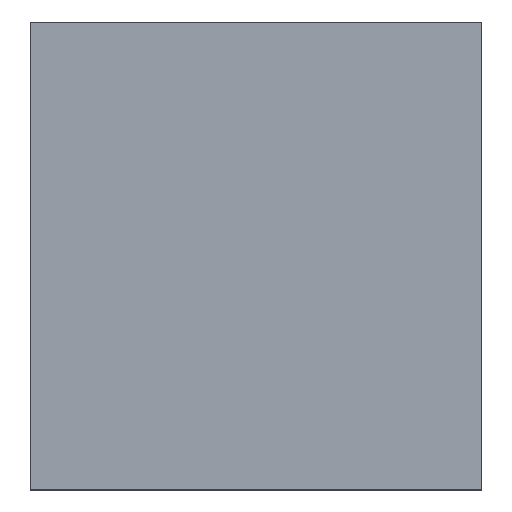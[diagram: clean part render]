
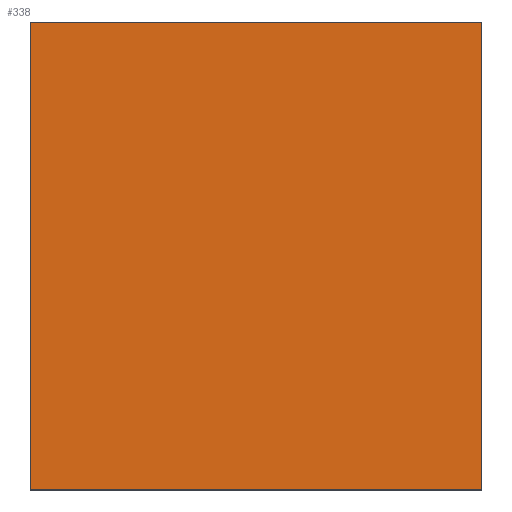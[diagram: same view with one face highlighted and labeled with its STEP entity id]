
A CAD part, top view. The second image highlights one B-rep face of the part: STEP entity #338.
In plain terms, the highlighted planar face has unit normal (0, 0, 1).
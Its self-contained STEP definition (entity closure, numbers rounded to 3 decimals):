
#24 = VERTEX_POINT('',#25);
#25 = CARTESIAN_POINT('',(-0.811,-0.84,0.5));
#32 = PLANE('',#33);
#33 = AXIS2_PLACEMENT_3D('',#34,#35,#36);
#34 = CARTESIAN_POINT('',(-0.811,-0.84,0.2));
#35 = DIRECTION('',(1.,0.,-0.));
#36 = DIRECTION('',(0.,0.,1.));
#44 = PLANE('',#45);
#45 = AXIS2_PLACEMENT_3D('',#46,#47,#48);
#46 = CARTESIAN_POINT('',(-0.811,-0.84,0.2));
#47 = DIRECTION('',(-0.,1.,0.));
#48 = DIRECTION('',(0.,0.,1.));
#85 = VERTEX_POINT('',#86);
#86 = CARTESIAN_POINT('',(-0.811,0.84,0.5));
#100 = PLANE('',#101);
#101 = AXIS2_PLACEMENT_3D('',#102,#103,#104);
#102 = CARTESIAN_POINT('',(-0.811,0.84,0.2));
#103 = DIRECTION('',(-0.,1.,0.));
#104 = DIRECTION('',(0.,0.,1.));
#112 = EDGE_CURVE('',#24,#85,#113,.T.);
#113 = SURFACE_CURVE('',#114,(#118,#125),.PCURVE_S1.);
#114 = LINE('',#115,#116);
#115 = CARTESIAN_POINT('',(-0.811,-0.84,0.5));
#116 = VECTOR('',#117,1.);
#117 = DIRECTION('',(-0.,1.,0.));
#118 = PCURVE('',#32,#119);
#119 = DEFINITIONAL_REPRESENTATION('',(#120),#124);
#120 = LINE('',#121,#122);
#121 = CARTESIAN_POINT('',(0.3,0.));
#122 = VECTOR('',#123,1.);
#123 = DIRECTION('',(0.,-1.));
#124 = ( GEOMETRIC_REPRESENTATION_CONTEXT(2) 
PARAMETRIC_REPRESENTATION_CONTEXT() REPRESENTATION_CONTEXT('2D SPACE',''
  ) );
#125 = PCURVE('',#126,#131);
#126 = PLANE('',#127);
#127 = AXIS2_PLACEMENT_3D('',#128,#129,#130);
#128 = CARTESIAN_POINT('',(-0.811,-0.84,0.5));
#129 = DIRECTION('',(0.,0.,1.));
#130 = DIRECTION('',(1.,0.,-0.));
#131 = DEFINITIONAL_REPRESENTATION('',(#132),#136);
#132 = LINE('',#133,#134);
#133 = CARTESIAN_POINT('',(0.,0.));
#134 = VECTOR('',#135,1.);
#135 = DIRECTION('',(0.,1.));
#136 = ( GEOMETRIC_REPRESENTATION_CONTEXT(2) 
PARAMETRIC_REPRESENTATION_CONTEXT() REPRESENTATION_CONTEXT('2D SPACE',''
  ) );
#144 = VERTEX_POINT('',#145);
#145 = CARTESIAN_POINT('',(0.811,-0.84,0.5));
#152 = PLANE('',#153);
#153 = AXIS2_PLACEMENT_3D('',#154,#155,#156);
#154 = CARTESIAN_POINT('',(0.811,-0.84,0.2));
#155 = DIRECTION('',(1.,0.,-0.));
#156 = DIRECTION('',(0.,0.,1.));
#195 = VERTEX_POINT('',#196);
#196 = CARTESIAN_POINT('',(0.811,0.84,0.5));
#217 = EDGE_CURVE('',#144,#195,#218,.T.);
#218 = SURFACE_CURVE('',#219,(#223,#230),.PCURVE_S1.);
#219 = LINE('',#220,#221);
#220 = CARTESIAN_POINT('',(0.811,-0.84,0.5));
#221 = VECTOR('',#222,1.);
#222 = DIRECTION('',(-0.,1.,0.));
#223 = PCURVE('',#152,#224);
#224 = DEFINITIONAL_REPRESENTATION('',(#225),#229);
#225 = LINE('',#226,#227);
#226 = CARTESIAN_POINT('',(0.3,0.));
#227 = VECTOR('',#228,1.);
#228 = DIRECTION('',(0.,-1.));
#229 = ( GEOMETRIC_REPRESENTATION_CONTEXT(2) 
PARAMETRIC_REPRESENTATION_CONTEXT() REPRESENTATION_CONTEXT('2D SPACE',''
  ) );
#230 = PCURVE('',#126,#231);
#231 = DEFINITIONAL_REPRESENTATION('',(#232),#236);
#232 = LINE('',#233,#234);
#233 = CARTESIAN_POINT('',(1.621,0.));
#234 = VECTOR('',#235,1.);
#235 = DIRECTION('',(0.,1.));
#236 = ( GEOMETRIC_REPRESENTATION_CONTEXT(2) 
PARAMETRIC_REPRESENTATION_CONTEXT() REPRESENTATION_CONTEXT('2D SPACE',''
  ) );
#263 = EDGE_CURVE('',#24,#144,#264,.T.);
#264 = SURFACE_CURVE('',#265,(#269,#276),.PCURVE_S1.);
#265 = LINE('',#266,#267);
#266 = CARTESIAN_POINT('',(-0.811,-0.84,0.5));
#267 = VECTOR('',#268,1.);
#268 = DIRECTION('',(1.,0.,-0.));
#269 = PCURVE('',#44,#270);
#270 = DEFINITIONAL_REPRESENTATION('',(#271),#275);
#271 = LINE('',#272,#273);
#272 = CARTESIAN_POINT('',(0.3,0.));
#273 = VECTOR('',#274,1.);
#274 = DIRECTION('',(0.,1.));
#275 = ( GEOMETRIC_REPRESENTATION_CONTEXT(2) 
PARAMETRIC_REPRESENTATION_CONTEXT() REPRESENTATION_CONTEXT('2D SPACE',''
  ) );
#276 = PCURVE('',#126,#277);
#277 = DEFINITIONAL_REPRESENTATION('',(#278),#282);
#278 = LINE('',#279,#280);
#279 = CARTESIAN_POINT('',(0.,0.));
#280 = VECTOR('',#281,1.);
#281 = DIRECTION('',(1.,0.));
#282 = ( GEOMETRIC_REPRESENTATION_CONTEXT(2) 
PARAMETRIC_REPRESENTATION_CONTEXT() REPRESENTATION_CONTEXT('2D SPACE',''
  ) );
#310 = EDGE_CURVE('',#85,#195,#311,.T.);
#311 = SURFACE_CURVE('',#312,(#316,#323),.PCURVE_S1.);
#312 = LINE('',#313,#314);
#313 = CARTESIAN_POINT('',(-0.811,0.84,0.5));
#314 = VECTOR('',#315,1.);
#315 = DIRECTION('',(1.,0.,-0.));
#316 = PCURVE('',#100,#317);
#317 = DEFINITIONAL_REPRESENTATION('',(#318),#322);
#318 = LINE('',#319,#320);
#319 = CARTESIAN_POINT('',(0.3,0.));
#320 = VECTOR('',#321,1.);
#321 = DIRECTION('',(0.,1.));
#322 = ( GEOMETRIC_REPRESENTATION_CONTEXT(2) 
PARAMETRIC_REPRESENTATION_CONTEXT() REPRESENTATION_CONTEXT('2D SPACE',''
  ) );
#323 = PCURVE('',#126,#324);
#324 = DEFINITIONAL_REPRESENTATION('',(#325),#329);
#325 = LINE('',#326,#327);
#326 = CARTESIAN_POINT('',(0.,1.68));
#327 = VECTOR('',#328,1.);
#328 = DIRECTION('',(1.,0.));
#329 = ( GEOMETRIC_REPRESENTATION_CONTEXT(2) 
PARAMETRIC_REPRESENTATION_CONTEXT() REPRESENTATION_CONTEXT('2D SPACE',''
  ) );
#338 = ADVANCED_FACE('',(#339),#126,.T.);
#339 = FACE_BOUND('',#340,.T.);
#340 = EDGE_LOOP('',(#341,#342,#343,#344));
#341 = ORIENTED_EDGE('',*,*,#112,.F.);
#342 = ORIENTED_EDGE('',*,*,#263,.T.);
#343 = ORIENTED_EDGE('',*,*,#217,.T.);
#344 = ORIENTED_EDGE('',*,*,#310,.F.);
